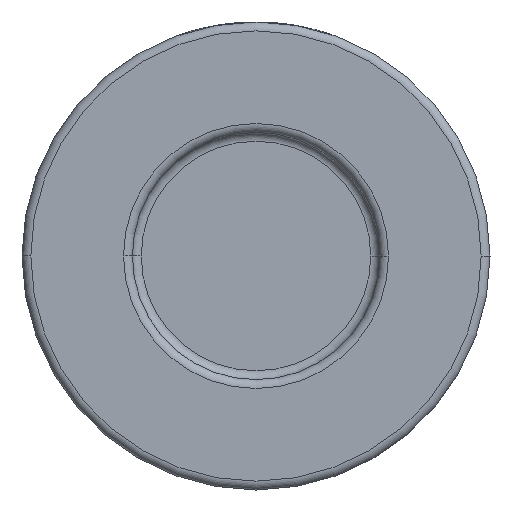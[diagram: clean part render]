
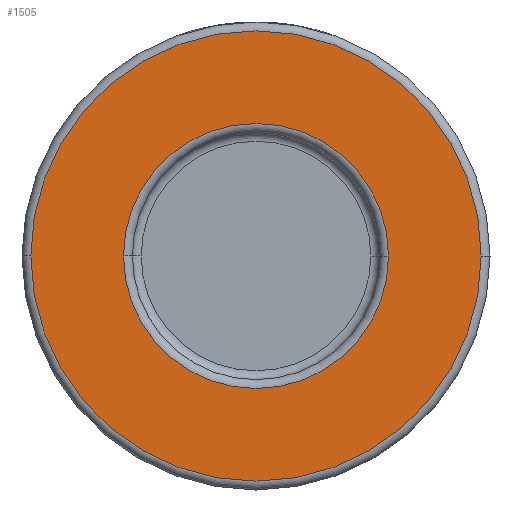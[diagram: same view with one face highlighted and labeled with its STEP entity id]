
A CAD part, front view. The second image highlights one B-rep face of the part: STEP entity #1505.
In plain terms, the highlighted planar face has unit normal (0, -1, 0).
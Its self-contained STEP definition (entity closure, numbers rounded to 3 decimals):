
#80 = CARTESIAN_POINT ( 'NONE',  ( 26.5, -16., 0. ) ) ;
#114 = EDGE_CURVE ( 'NONE', #1088, #2308, #3180, .T. ) ;
#241 = EDGE_CURVE ( 'NONE', #2308, #1088, #4177, .T. ) ;
#254 = CARTESIAN_POINT ( 'NONE',  ( 0., -16., 0. ) ) ;
#725 = CARTESIAN_POINT ( 'NONE',  ( 15., -16., 0. ) ) ;
#903 = DIRECTION ( 'NONE',  ( 1., 0., 0. ) ) ;
#935 = CARTESIAN_POINT ( 'NONE',  ( 25.5, -16., 0. ) ) ;
#963 = CARTESIAN_POINT ( 'NONE',  ( 0., -16., 0. ) ) ;
#1088 = VERTEX_POINT ( 'NONE', #1434 ) ;
#1139 = DIRECTION ( 'NONE',  ( 0., -1., 0. ) ) ;
#1252 = ORIENTED_EDGE ( 'NONE', *, *, #241, .T. ) ;
#1344 = AXIS2_PLACEMENT_3D ( 'NONE', #3607, #1574, #903 ) ;
#1434 = CARTESIAN_POINT ( 'NONE',  ( -25.5, -16., 0. ) ) ;
#1505 = ADVANCED_FACE ( 'NONE', ( #2854, #4201 ), #2554, .T. ) ;
#1574 = DIRECTION ( 'NONE',  ( 0., 1., 0. ) ) ;
#1592 = ORIENTED_EDGE ( 'NONE', *, *, #3584, .T. ) ;
#1600 = EDGE_LOOP ( 'NONE', ( #1252, #2440 ) ) ;
#1905 = ORIENTED_EDGE ( 'NONE', *, *, #1976, .T. ) ;
#1976 = EDGE_CURVE ( 'NONE', #4208, #4053, #4056, .T. ) ;
#2004 = DIRECTION ( 'NONE',  ( 0., -1., 0. ) ) ;
#2035 = AXIS2_PLACEMENT_3D ( 'NONE', #4184, #2426, #3471 ) ;
#2272 = DIRECTION ( 'NONE',  ( 1., 0., 0. ) ) ;
#2308 = VERTEX_POINT ( 'NONE', #935 ) ;
#2345 = DIRECTION ( 'NONE',  ( 0., -1., 0. ) ) ;
#2426 = DIRECTION ( 'NONE',  ( 0., 1., 0. ) ) ;
#2440 = ORIENTED_EDGE ( 'NONE', *, *, #114, .T. ) ;
#2554 = PLANE ( 'NONE',  #3780 ) ;
#2854 = FACE_BOUND ( 'NONE', #2963, .T. ) ;
#2963 = EDGE_LOOP ( 'NONE', ( #1592, #1905 ) ) ;
#3012 = DIRECTION ( 'NONE',  ( 1., 0., 0. ) ) ;
#3034 = CIRCLE ( 'NONE', #2035, 15. ) ;
#3111 = AXIS2_PLACEMENT_3D ( 'NONE', #963, #2004, #2272 ) ;
#3180 = CIRCLE ( 'NONE', #3111, 25.5 ) ;
#3216 = DIRECTION ( 'NONE',  ( 1., 0., 0. ) ) ;
#3471 = DIRECTION ( 'NONE',  ( 1., 0., 0. ) ) ;
#3561 = CARTESIAN_POINT ( 'NONE',  ( -15., -16., 0. ) ) ;
#3584 = EDGE_CURVE ( 'NONE', #4053, #4208, #3034, .T. ) ;
#3607 = CARTESIAN_POINT ( 'NONE',  ( 0., -16., 0. ) ) ;
#3780 = AXIS2_PLACEMENT_3D ( 'NONE', #80, #1139, #3216 ) ;
#4053 = VERTEX_POINT ( 'NONE', #725 ) ;
#4056 = CIRCLE ( 'NONE', #1344, 15. ) ;
#4105 = AXIS2_PLACEMENT_3D ( 'NONE', #254, #2345, #3012 ) ;
#4177 = CIRCLE ( 'NONE', #4105, 25.5 ) ;
#4184 = CARTESIAN_POINT ( 'NONE',  ( 0., -16., 0. ) ) ;
#4201 = FACE_OUTER_BOUND ( 'NONE', #1600, .T. ) ;
#4208 = VERTEX_POINT ( 'NONE', #3561 ) ;
